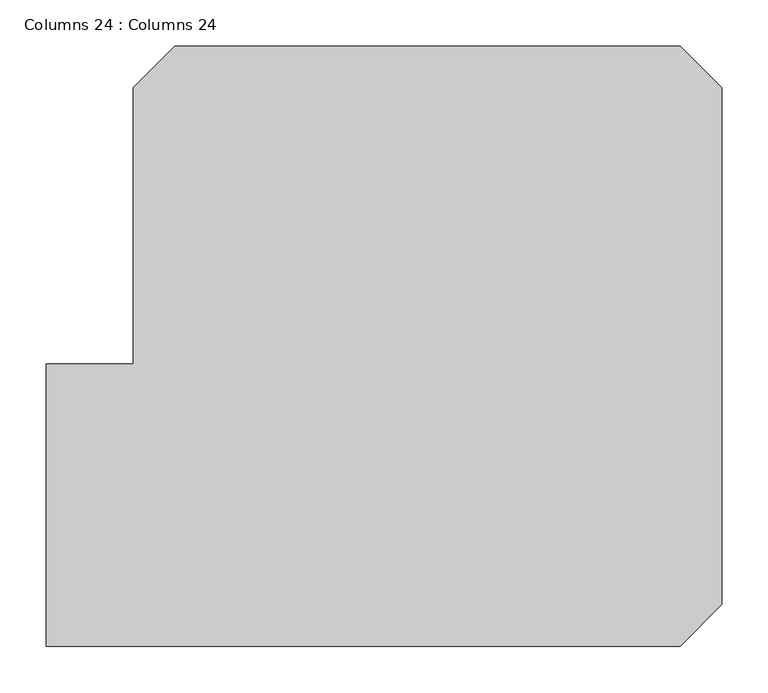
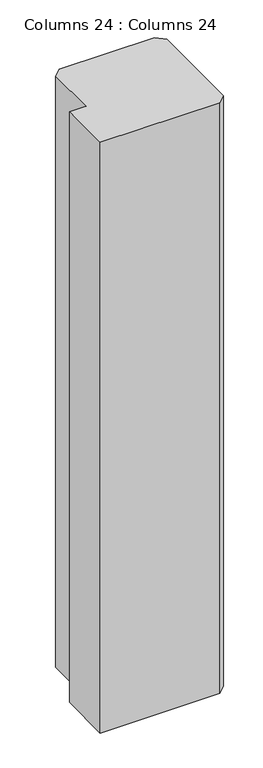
"""IFC4 building model written with IfcOpenShell, lengths in millimetres: column geometry, Columns 24 : Columns 24."""

from ifc_helpers import new_model, si_unit, origin, origin_with_axes, place, context, project, spatial, polyline, outline, extrude, source, transform, mapped, element, save


def columns_24_columns_24_349f5db5(model_context):
    return source(origin(), model_context, "Body", "SweptSolid", [
        extrude(outline(polyline([(-5696.7191778, 92967.6591334), (-6381.6574076, 92967.6591334), (-6381.6574076, 93272.4591334), (-6287.7204584, 93272.4591334), (-6287.7204584, 93571.360414), (-6242.8191778, 93616.2616946), (-5696.7191778, 93616.2616946), (-5651.8178972, 93571.360414), (-5651.8178972, 93012.560414), (-5696.7191778, 92967.6591334)])), origin_with_axes(), (0.0, 0.0, 1.0), 3569.1266009),
    ])


if __name__ == "__main__":
    model = new_model("IFC4")
    model_context = context("Model", 3, world=origin())
    ifc_project = project(units=[si_unit("LENGTHUNIT", "METRE", prefix="MILLI")], contexts=[model_context])
    site = spatial("IfcSite", under=ifc_project)
    building = spatial("IfcBuilding", under=site)
    placement = place(None, origin())
    columns_24_columns_24_shape = columns_24_columns_24_349f5db5(model_context)
    element("IfcColumn", 1, ObjectType="Columns 24 : Columns 24", at=placement, inside=building, context=model_context, shape_type="MappedRepresentation", body=[
        mapped(columns_24_columns_24_shape, transform((0.0, 0.0, 0.0), x_axis=(1.0, 0.0, 0.0), y_axis=(0.0, 1.0, 0.0), z_axis=(0.0, 0.0, 1.0))),
    ])
    save(model, "model.ifc")
